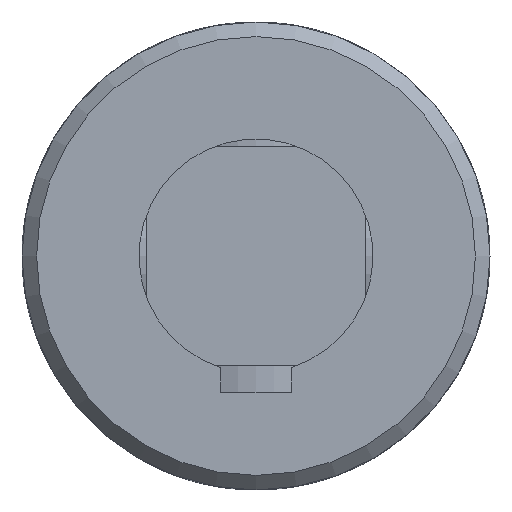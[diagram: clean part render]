
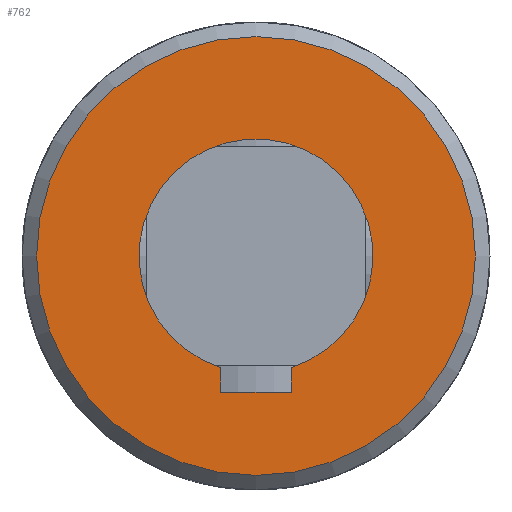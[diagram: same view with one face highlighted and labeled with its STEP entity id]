
A CAD part, front view. The second image highlights one B-rep face of the part: STEP entity #762.
In plain terms, the highlighted planar face has unit normal (0, -1, 0).
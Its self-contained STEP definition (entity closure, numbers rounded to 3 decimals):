
#87=LINE('',#1149,#122);
#90=LINE('',#1167,#125);
#95=LINE('',#1187,#130);
#122=VECTOR('',#943,4.221);
#125=VECTOR('',#954,4.221);
#130=VECTOR('',#963,12.);
#156=PLANE('',#831);
#182=FACE_BOUND('',#274,.T.);
#212=FACE_OUTER_BOUND('',#273,.T.);
#273=EDGE_LOOP('',(#622));
#274=EDGE_LOOP('',(#623,#624,#625,#626));
#315=CIRCLE('',#817,20.);
#321=CIRCLE('',#829,37.5);
#358=VERTEX_POINT('',#1146);
#359=VERTEX_POINT('',#1148);
#362=VERTEX_POINT('',#1158);
#364=VERTEX_POINT('',#1166);
#377=VERTEX_POINT('',#1276);
#439=EDGE_CURVE('',#359,#358,#87,.T.);
#443=EDGE_CURVE('',#362,#359,#315,.T.);
#446=EDGE_CURVE('',#364,#362,#90,.T.);
#454=EDGE_CURVE('',#358,#364,#95,.T.);
#465=EDGE_CURVE('',#377,#377,#321,.T.);
#622=ORIENTED_EDGE('',*,*,#465,.F.);
#623=ORIENTED_EDGE('',*,*,#439,.T.);
#624=ORIENTED_EDGE('',*,*,#454,.T.);
#625=ORIENTED_EDGE('',*,*,#446,.T.);
#626=ORIENTED_EDGE('',*,*,#443,.T.);
#762=ADVANCED_FACE('',(#212,#182),#156,.F.);
#817=AXIS2_PLACEMENT_3D('',#1159,#949,#950);
#829=AXIS2_PLACEMENT_3D('',#1277,#980,#981);
#831=AXIS2_PLACEMENT_3D('',#1517,#988,#989);
#943=DIRECTION('',(0.,0.,-1.));
#949=DIRECTION('center_axis',(0.,1.,0.));
#950=DIRECTION('ref_axis',(-0.3,0.,0.954));
#954=DIRECTION('',(0.,0.,1.));
#963=DIRECTION('',(-1.,0.,0.));
#980=DIRECTION('center_axis',(0.,1.,0.));
#981=DIRECTION('ref_axis',(1.,0.,0.));
#988=DIRECTION('center_axis',(0.,1.,0.));
#989=DIRECTION('ref_axis',(0.,0.,1.));
#1146=CARTESIAN_POINT('',(6.,-99.,-23.3));
#1148=CARTESIAN_POINT('',(6.,-99.,-19.079));
#1149=CARTESIAN_POINT('',(6.,-99.,-9.539));
#1158=CARTESIAN_POINT('',(-6.,-99.,-19.079));
#1159=CARTESIAN_POINT('Origin',(0.,-99.,0.));
#1166=CARTESIAN_POINT('',(-6.,-99.,-23.3));
#1167=CARTESIAN_POINT('',(-6.,-99.,-11.65));
#1187=CARTESIAN_POINT('',(3.,-99.,-23.3));
#1276=CARTESIAN_POINT('',(-37.5,-99.,0.));
#1277=CARTESIAN_POINT('Origin',(0.,-99.,0.));
#1517=CARTESIAN_POINT('Origin',(0.,-99.,0.));
